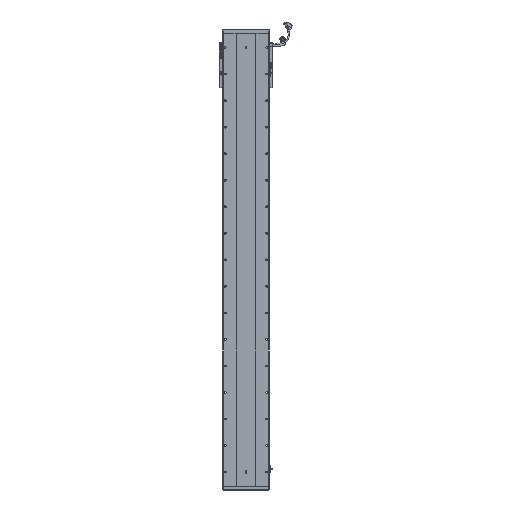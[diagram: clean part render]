
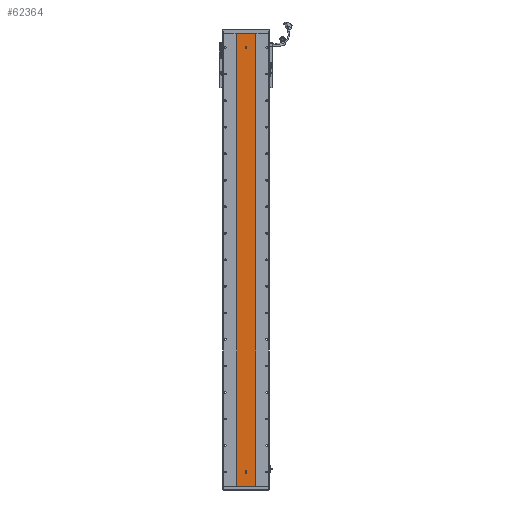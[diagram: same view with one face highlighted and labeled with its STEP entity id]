
A CAD part, front view. The second image highlights one B-rep face of the part: STEP entity #62364.
In plain terms, the highlighted planar face has unit normal (0, -1, 0).
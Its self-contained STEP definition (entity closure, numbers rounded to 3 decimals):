
#828 = EDGE_CURVE ( 'NONE', #72559, #31145, #12951, .T. ) ;
#1341 = DIRECTION ( 'NONE',  ( 0., 0., -1. ) ) ;
#2993 = LINE ( 'NONE', #98845, #8110 ) ;
#6585 = LINE ( 'NONE', #41123, #19446 ) ;
#7638 = DIRECTION ( 'NONE',  ( 0., -1., 0. ) ) ;
#7831 = VECTOR ( 'NONE', #79421, 1000. ) ;
#7945 = FACE_OUTER_BOUND ( 'NONE', #41608, .T. ) ;
#8110 = VECTOR ( 'NONE', #17522, 1000. ) ;
#10071 = EDGE_LOOP ( 'NONE', ( #18314, #90084 ) ) ;
#10163 = DIRECTION ( 'NONE',  ( 0., 0., -1. ) ) ;
#12701 = VECTOR ( 'NONE', #70902, 1000. ) ;
#12951 = CIRCLE ( 'NONE', #19211, 3. ) ;
#13645 = DIRECTION ( 'NONE',  ( 1., 0., 0. ) ) ;
#13941 = CARTESIAN_POINT ( 'NONE',  ( 3244.748, 1415.701, 1707. ) ) ;
#14159 = CARTESIAN_POINT ( 'NONE',  ( 3280.529, 1415.701, 1656.5 ) ) ;
#14417 = VERTEX_POINT ( 'NONE', #30289 ) ;
#17522 = DIRECTION ( 'NONE',  ( 0., 0., -1. ) ) ;
#17775 = CARTESIAN_POINT ( 'NONE',  ( 3280.529, 1415.701, 1653.5 ) ) ;
#18314 = ORIENTED_EDGE ( 'NONE', *, *, #103721, .F. ) ;
#18766 = VERTEX_POINT ( 'NONE', #41429 ) ;
#19211 = AXIS2_PLACEMENT_3D ( 'NONE', #42058, #57805, #41705 ) ;
#19446 = VECTOR ( 'NONE', #105243, 1000. ) ;
#19883 = CARTESIAN_POINT ( 'NONE',  ( 3280.529, 1415.701, 1650.5 ) ) ;
#20205 = VERTEX_POINT ( 'NONE', #76341 ) ;
#20341 = EDGE_LOOP ( 'NONE', ( #31186, #34258, #41405, #60174, #31971 ) ) ;
#24491 = DIRECTION ( 'NONE',  ( 0., -1., 0. ) ) ;
#27422 = CARTESIAN_POINT ( 'NONE',  ( 3316.311, 1415.701, 1707. ) ) ;
#30117 = VERTEX_POINT ( 'NONE', #94549 ) ;
#30289 = CARTESIAN_POINT ( 'NONE',  ( 3244.748, 1415.701, 1707. ) ) ;
#30328 = DIRECTION ( 'NONE',  ( 0., 0., 1. ) ) ;
#30467 = CARTESIAN_POINT ( 'NONE',  ( 3283.529, 1415.701, 55. ) ) ;
#30988 = ORIENTED_EDGE ( 'NONE', *, *, #54859, .F. ) ;
#31145 = VERTEX_POINT ( 'NONE', #19883 ) ;
#31186 = ORIENTED_EDGE ( 'NONE', *, *, #88542, .F. ) ;
#31971 = ORIENTED_EDGE ( 'NONE', *, *, #67201, .F. ) ;
#34258 = ORIENTED_EDGE ( 'NONE', *, *, #103378, .F. ) ;
#38592 = AXIS2_PLACEMENT_3D ( 'NONE', #17775, #83337, #1341 ) ;
#41123 = CARTESIAN_POINT ( 'NONE',  ( 3283.529, 1415.701, 55. ) ) ;
#41204 = VERTEX_POINT ( 'NONE', #54017 ) ;
#41405 = ORIENTED_EDGE ( 'NONE', *, *, #55821, .F. ) ;
#41429 = CARTESIAN_POINT ( 'NONE',  ( 3316.311, 1415.701, 0. ) ) ;
#41608 = EDGE_LOOP ( 'NONE', ( #99674, #104582, #30988, #84525 ) ) ;
#41705 = DIRECTION ( 'NONE',  ( 0., 0., -1. ) ) ;
#42058 = CARTESIAN_POINT ( 'NONE',  ( 3280.529, 1415.701, 1653.5 ) ) ;
#42235 = CARTESIAN_POINT ( 'NONE',  ( 3244.748, 1415.701, 1707. ) ) ;
#45301 = EDGE_CURVE ( 'NONE', #83293, #18766, #62022, .T. ) ;
#46143 = VECTOR ( 'NONE', #57985, 1000. ) ;
#49859 = LINE ( 'NONE', #13941, #12701 ) ;
#50487 = VECTOR ( 'NONE', #13645, 1000. ) ;
#53443 = EDGE_CURVE ( 'NONE', #69861, #103152, #6585, .T. ) ;
#54017 = CARTESIAN_POINT ( 'NONE',  ( 3277.529, 1415.701, 55. ) ) ;
#54859 = EDGE_CURVE ( 'NONE', #14417, #103945, #49859, .T. ) ;
#55821 = EDGE_CURVE ( 'NONE', #103152, #41204, #62528, .T. ) ;
#56635 = CARTESIAN_POINT ( 'NONE',  ( 3280.529, 1415.701, 52. ) ) ;
#57714 = CIRCLE ( 'NONE', #38592, 3. ) ;
#57805 = DIRECTION ( 'NONE',  ( 0., -1., 0. ) ) ;
#57985 = DIRECTION ( 'NONE',  ( 0., 0., -1. ) ) ;
#60174 = ORIENTED_EDGE ( 'NONE', *, *, #53443, .F. ) ;
#61573 = CARTESIAN_POINT ( 'NONE',  ( 3244.748, 1415.701, 0. ) ) ;
#62022 = LINE ( 'NONE', #74957, #50487 ) ;
#62364 = ADVANCED_FACE ( 'NONE', ( #95069, #96319, #7945 ), #88845, .F. ) ;
#62528 = CIRCLE ( 'NONE', #63719, 3. ) ;
#63719 = AXIS2_PLACEMENT_3D ( 'NONE', #92569, #76464, #84699 ) ;
#63994 = AXIS2_PLACEMENT_3D ( 'NONE', #73569, #24491, #10163 ) ;
#67201 = EDGE_CURVE ( 'NONE', #30117, #69861, #92926, .T. ) ;
#68009 = LINE ( 'NONE', #73813, #46143 ) ;
#68657 = CIRCLE ( 'NONE', #63994, 3. ) ;
#69861 = VERTEX_POINT ( 'NONE', #85195 ) ;
#70477 = LINE ( 'NONE', #95175, #7831 ) ;
#70902 = DIRECTION ( 'NONE',  ( 1., 0., 0. ) ) ;
#72559 = VERTEX_POINT ( 'NONE', #14159 ) ;
#73536 = DIRECTION ( 'NONE',  ( 0., 0., -1. ) ) ;
#73569 = CARTESIAN_POINT ( 'NONE',  ( 3280.529, 1415.701, 52. ) ) ;
#73813 = CARTESIAN_POINT ( 'NONE',  ( 3277.529, 1415.701, 55. ) ) ;
#74957 = CARTESIAN_POINT ( 'NONE',  ( 3244.748, 1415.701, 0. ) ) ;
#75348 = EDGE_CURVE ( 'NONE', #14417, #83293, #2993, .T. ) ;
#76341 = CARTESIAN_POINT ( 'NONE',  ( 3277.529, 1415.701, 52. ) ) ;
#76464 = DIRECTION ( 'NONE',  ( 0., -1., 0. ) ) ;
#77388 = EDGE_CURVE ( 'NONE', #103945, #18766, #70477, .T. ) ;
#79421 = DIRECTION ( 'NONE',  ( 0., 0., -1. ) ) ;
#83293 = VERTEX_POINT ( 'NONE', #61573 ) ;
#83337 = DIRECTION ( 'NONE',  ( 0., -1., 0. ) ) ;
#84525 = ORIENTED_EDGE ( 'NONE', *, *, #75348, .T. ) ;
#84699 = DIRECTION ( 'NONE',  ( 0., 0., -1. ) ) ;
#85195 = CARTESIAN_POINT ( 'NONE',  ( 3283.529, 1415.701, 52. ) ) ;
#88542 = EDGE_CURVE ( 'NONE', #20205, #30117, #68657, .T. ) ;
#88845 = PLANE ( 'NONE',  #90250 ) ;
#90084 = ORIENTED_EDGE ( 'NONE', *, *, #828, .F. ) ;
#90250 = AXIS2_PLACEMENT_3D ( 'NONE', #42235, #103422, #30328 ) ;
#92569 = CARTESIAN_POINT ( 'NONE',  ( 3280.529, 1415.701, 55. ) ) ;
#92926 = CIRCLE ( 'NONE', #97020, 3. ) ;
#94549 = CARTESIAN_POINT ( 'NONE',  ( 3280.529, 1415.701, 49. ) ) ;
#95069 = FACE_BOUND ( 'NONE', #20341, .T. ) ;
#95175 = CARTESIAN_POINT ( 'NONE',  ( 3316.311, 1415.701, 1707. ) ) ;
#96319 = FACE_BOUND ( 'NONE', #10071, .T. ) ;
#97020 = AXIS2_PLACEMENT_3D ( 'NONE', #56635, #7638, #73536 ) ;
#98845 = CARTESIAN_POINT ( 'NONE',  ( 3244.748, 1415.701, 1707. ) ) ;
#99674 = ORIENTED_EDGE ( 'NONE', *, *, #45301, .T. ) ;
#103152 = VERTEX_POINT ( 'NONE', #30467 ) ;
#103378 = EDGE_CURVE ( 'NONE', #41204, #20205, #68009, .T. ) ;
#103422 = DIRECTION ( 'NONE',  ( 0., 1., 0. ) ) ;
#103721 = EDGE_CURVE ( 'NONE', #31145, #72559, #57714, .T. ) ;
#103945 = VERTEX_POINT ( 'NONE', #27422 ) ;
#104582 = ORIENTED_EDGE ( 'NONE', *, *, #77388, .F. ) ;
#105243 = DIRECTION ( 'NONE',  ( 0., 0., 1. ) ) ;
